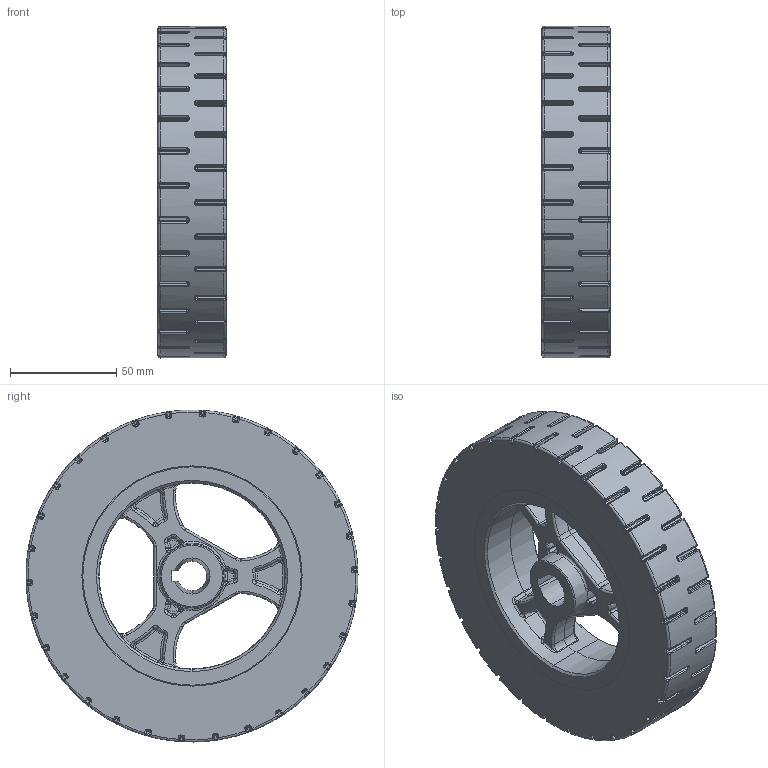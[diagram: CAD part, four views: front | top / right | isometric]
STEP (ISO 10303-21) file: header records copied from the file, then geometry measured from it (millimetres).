
FILE_DESCRIPTION (( 'STEP AP214' ), '1' );
FILE_NAME ('12038406135014.STEP', '2026-04-30T06:53:28', ( '20241006' ), ( '' ), 'SwSTEP 2.0', 'SolidWorks 2021', '' );
FILE_SCHEMA (( 'AUTOMOTIVE_DESIGN' ));
Length unit declared in the file: millimetre
Products named in the file (3): 葩璃 俋婦^12038406135014; 12038406135014; 复件 壓鑄鋁-車加工^12038406135014
Assembly tree (2 placements, depth 2):
  12038406135014
    复件 壓鑄鋁-車加工^12038406135014
    葩璃 俋婦^12038406135014
Bounding box: 32 x 156.21 x 156.21 mm (x, y, z)
Volume: 455919.2 mm3; surface area: 85967.9 mm2
Topology: 2 solids, 2 shells, 1913 faces, 4546 edges, 2554 vertices
Faces by surface type: cylinder 623, torus 526, bspline 300, plane 222, cone 122, sphere 120
Entity records: 70924 total; most frequent: CARTESIAN_POINT 28493, DIRECTION 9501, ORIENTED_EDGE 8800, EDGE_CURVE 4400, AXIS2_PLACEMENT_3D 4151, CIRCLE 2533, VERTEX_POINT 2490, EDGE_LOOP 1922
